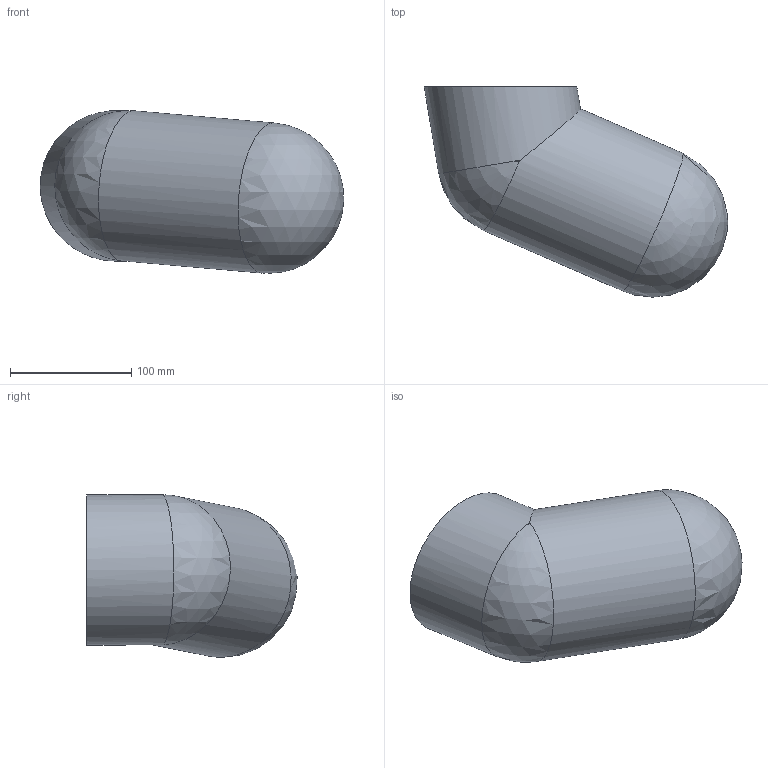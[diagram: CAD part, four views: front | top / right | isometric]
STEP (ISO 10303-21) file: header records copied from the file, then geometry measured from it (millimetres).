
FILE_DESCRIPTION(('Open CASCADE Model'),'2;1');
FILE_NAME('Open CASCADE Shape Model','2026-11-10T19:16:49',('Author'),( 'Open CASCADE'),'Open CASCADE STEP processor 8.0','Open CASCADE 8.0' ,'Unknown');
FILE_SCHEMA(('AUTOMOTIVE_DESIGN { 1 0 10303 214 1 1 1 1 }'));
Length unit declared in the file: millimetre
Products named in the file (1): Open CASCADE STEP translator 8.0 9
Bounding box: 250.04 x 173.3 x 134 mm (x, y, z)
Volume: 189592.9 mm3; surface area: 190378.2 mm2
Topology: 1 solids, 1 shells, 11 faces, 34 edges, 20 vertices
Faces by surface type: sphere 6, cylinder 4, plane 1
Full cylindrical faces by diameter (mm): 120 x2, 124 x2
Entity records: 1780 total; most frequent: CARTESIAN_POINT 1200, DIRECTION 114, ORIENTED_EDGE 56, PCURVE 56, DEFINITIONAL_REPRESENTATION 56, LINE 40, VECTOR 40, AXIS2_PLACEMENT_3D 36
